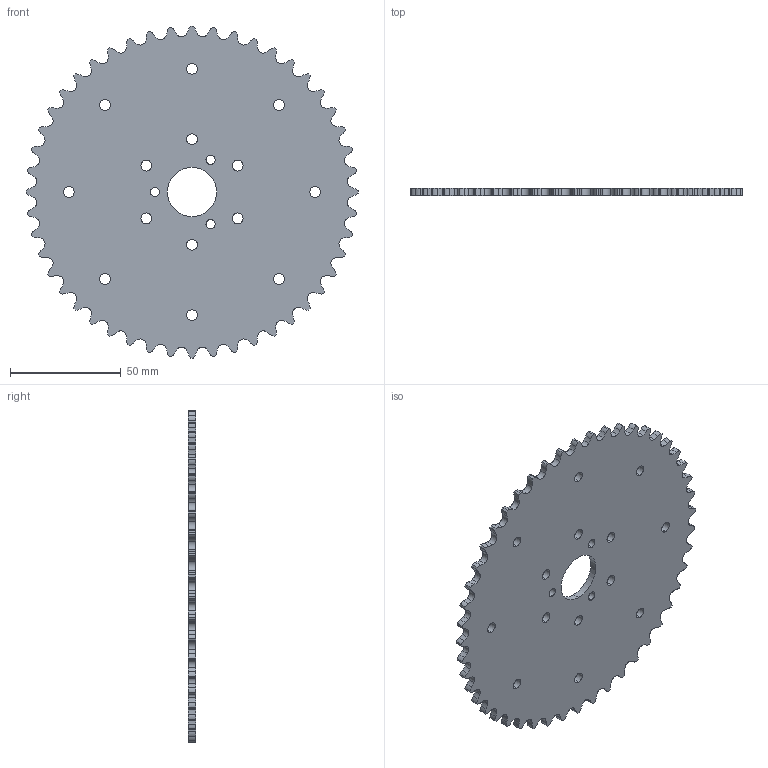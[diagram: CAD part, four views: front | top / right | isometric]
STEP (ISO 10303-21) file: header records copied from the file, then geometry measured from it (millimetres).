
FILE_DESCRIPTION (( 'STEP AP203' ), '1' );
FILE_NAME ('IFI-SPROCKET-35A48 RevB.STEP', '2006-11-03T17:44:19', ( 'Innovation First, Inc.' ), ( 'Innovation First, Inc.' ), 'SwSTEP 2.0', 'SolidWorks 2006052', '' );
FILE_SCHEMA (( 'CONFIG_CONTROL_DESIGN' ));
Length unit declared in the file: inch
Products named in the file (1): IFI-SPROCKET-35A48 RevB
Bounding box: 149.9 x 3.17 x 149.9 mm (x, y, z)
Volume: 49854.9 mm3; surface area: 34617.5 mm2
Topology: 1 solids, 1 shells, 352 faces, 1050 edges, 700 vertices
Faces by surface type: cylinder 302, plane 50
Entity records: 12329 total; most frequent: DIRECTION 2360, CARTESIAN_POINT 2103, ORIENTED_EDGE 2100, EDGE_CURVE 1050, AXIS2_PLACEMENT_3D 957, VERTEX_POINT 700, CIRCLE 604, VECTOR 446
